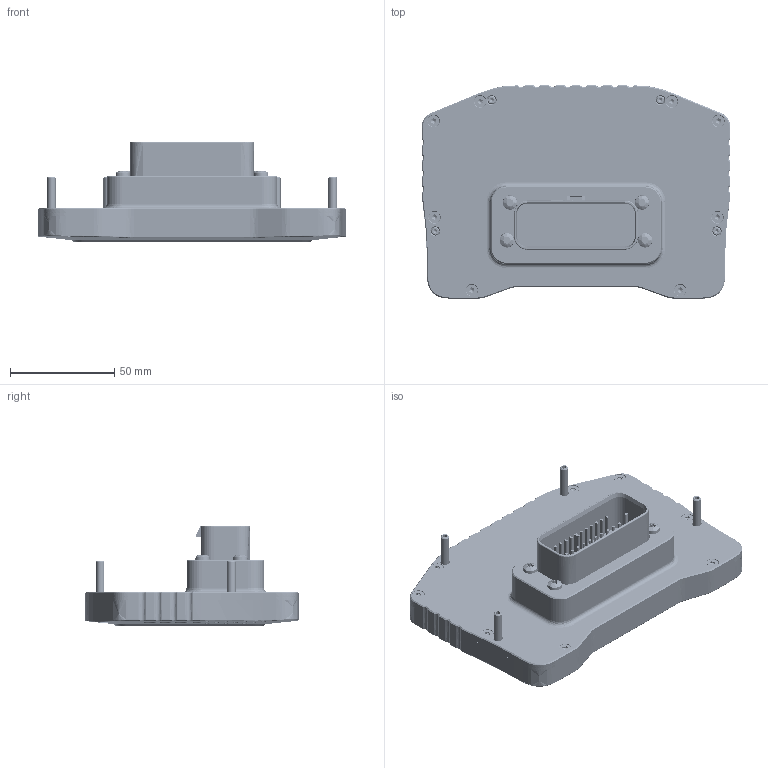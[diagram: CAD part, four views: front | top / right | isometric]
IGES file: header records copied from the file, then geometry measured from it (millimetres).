
Start section: SolidWorks IGES file using analytic representation for surfaces
Global section: file name: C:\Users\asus\Dropbox\ECUMASTER-CAD\ADUv2\pub\ADU5v2.IGS; native system: SolidWorks 2017; preprocessor: SolidWorks 2017; author: asus; date: 210104.130148; units: millimetre
Bounding box: 148.2 x 102.34 x 48.22 mm (x, y, z)
Surface area: 118325 mm2 (no closed solid volume)
Topology: 0 solids, 0 shells, 3739 faces, 38119 edges, 38044 vertices
Faces by surface type: bspline 1995, revolution 1744
